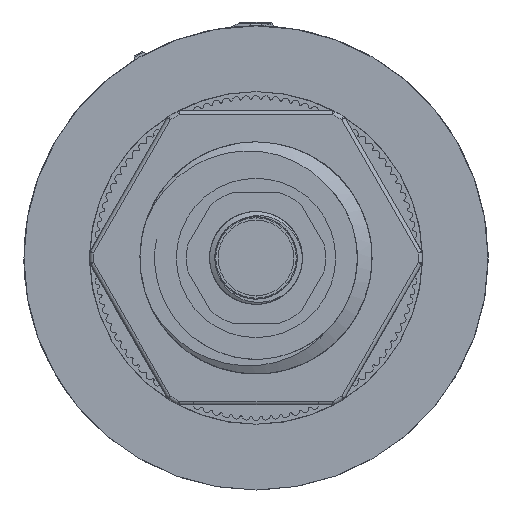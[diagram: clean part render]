
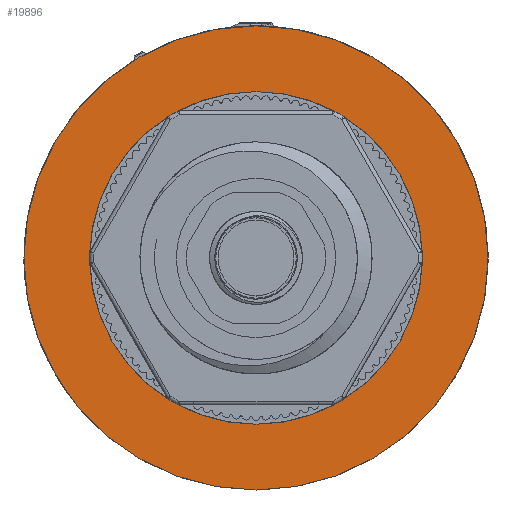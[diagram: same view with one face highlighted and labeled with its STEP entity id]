
A CAD part, front view. The second image highlights one B-rep face of the part: STEP entity #19896.
In plain terms, the highlighted planar face has unit normal (0, -1, 0).
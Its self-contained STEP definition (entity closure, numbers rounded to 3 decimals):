
#790 = CIRCLE ( 'NONE', #14342, 21.5 ) ;
#1158 = PLANE ( 'NONE',  #20654 ) ;
#1201 = ORIENTED_EDGE ( 'NONE', *, *, #9025, .T. ) ;
#1619 = CARTESIAN_POINT ( 'NONE',  ( 0., 50.3, 0. ) ) ;
#1766 = AXIS2_PLACEMENT_3D ( 'NONE', #1619, #19477, #28429 ) ;
#2902 = DIRECTION ( 'NONE',  ( 0., -1., 0. ) ) ;
#3049 = DIRECTION ( 'NONE',  ( 0., 0., -1. ) ) ;
#5994 = ORIENTED_EDGE ( 'NONE', *, *, #7243, .F. ) ;
#6019 = EDGE_CURVE ( 'NONE', #19553, #18557, #14885, .T. ) ;
#6088 = EDGE_LOOP ( 'NONE', ( #12256, #1201 ) ) ;
#6760 = EDGE_CURVE ( 'NONE', #23698, #7756, #790, .T. ) ;
#7243 = EDGE_CURVE ( 'NONE', #7756, #23698, #13422, .T. ) ;
#7442 = CARTESIAN_POINT ( 'NONE',  ( 0., 50.3, 0. ) ) ;
#7756 = VERTEX_POINT ( 'NONE', #11398 ) ;
#9025 = EDGE_CURVE ( 'NONE', #18557, #19553, #10634, .T. ) ;
#10634 = CIRCLE ( 'NONE', #1766, 30. ) ;
#11398 = CARTESIAN_POINT ( 'NONE',  ( 0., 50.3, 21.5 ) ) ;
#12256 = ORIENTED_EDGE ( 'NONE', *, *, #6019, .T. ) ;
#13422 = CIRCLE ( 'NONE', #16228, 21.5 ) ;
#14310 = FACE_BOUND ( 'NONE', #26777, .T. ) ;
#14342 = AXIS2_PLACEMENT_3D ( 'NONE', #26808, #15657, #3049 ) ;
#14885 = CIRCLE ( 'NONE', #18173, 30. ) ;
#15657 = DIRECTION ( 'NONE',  ( 0., -1., 0. ) ) ;
#16228 = AXIS2_PLACEMENT_3D ( 'NONE', #27779, #27485, #24997 ) ;
#16230 = DIRECTION ( 'NONE',  ( 0., 0., 1. ) ) ;
#17429 = CARTESIAN_POINT ( 'NONE',  ( 0., 50.3, -21.5 ) ) ;
#18173 = AXIS2_PLACEMENT_3D ( 'NONE', #7442, #2902, #20911 ) ;
#18557 = VERTEX_POINT ( 'NONE', #23121 ) ;
#18718 = CARTESIAN_POINT ( 'NONE',  ( -15., 50.3, 0. ) ) ;
#19016 = DIRECTION ( 'NONE',  ( 0., 1., 0. ) ) ;
#19477 = DIRECTION ( 'NONE',  ( 0., -1., 0. ) ) ;
#19553 = VERTEX_POINT ( 'NONE', #21259 ) ;
#19896 = ADVANCED_FACE ( 'NONE', ( #14310, #25325 ), #1158, .F. ) ;
#20654 = AXIS2_PLACEMENT_3D ( 'NONE', #18718, #19016, #16230 ) ;
#20911 = DIRECTION ( 'NONE',  ( 0., 0., -1. ) ) ;
#21259 = CARTESIAN_POINT ( 'NONE',  ( 0., 50.3, -30. ) ) ;
#23121 = CARTESIAN_POINT ( 'NONE',  ( 0., 50.3, 30. ) ) ;
#23698 = VERTEX_POINT ( 'NONE', #17429 ) ;
#24997 = DIRECTION ( 'NONE',  ( 0., 0., -1. ) ) ;
#25324 = ORIENTED_EDGE ( 'NONE', *, *, #6760, .F. ) ;
#25325 = FACE_OUTER_BOUND ( 'NONE', #6088, .T. ) ;
#26777 = EDGE_LOOP ( 'NONE', ( #5994, #25324 ) ) ;
#26808 = CARTESIAN_POINT ( 'NONE',  ( 0., 50.3, 0. ) ) ;
#27485 = DIRECTION ( 'NONE',  ( 0., -1., 0. ) ) ;
#27779 = CARTESIAN_POINT ( 'NONE',  ( 0., 50.3, 0. ) ) ;
#28429 = DIRECTION ( 'NONE',  ( 0., 0., -1. ) ) ;
